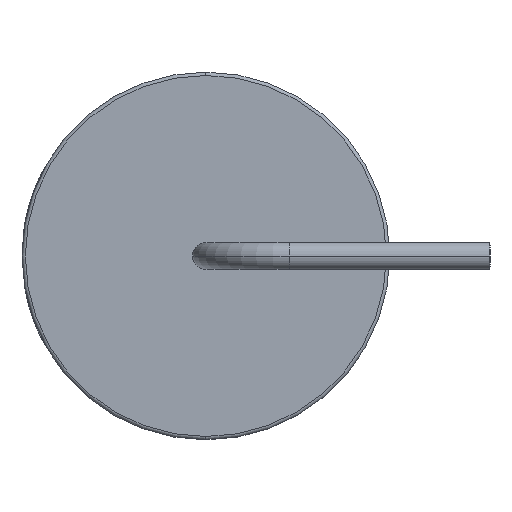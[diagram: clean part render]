
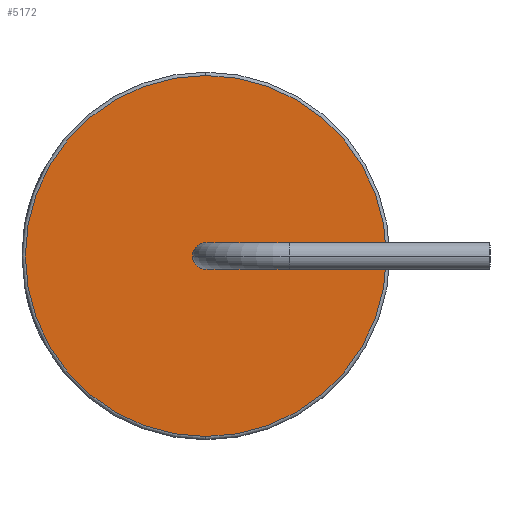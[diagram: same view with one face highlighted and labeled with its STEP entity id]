
A CAD part, left-side view. The second image highlights one B-rep face of the part: STEP entity #5172.
In plain terms, the highlighted planar face has unit normal (-1, 0, 0).
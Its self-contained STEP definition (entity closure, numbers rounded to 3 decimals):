
#41 = AXIS2_PLACEMENT_3D ( 'NONE', #2728, #2750, #3755 ) ;
#53 = AXIS2_PLACEMENT_3D ( 'NONE', #5162, #1799, #3710 ) ;
#113 = VERTEX_POINT ( 'NONE', #5294 ) ;
#241 = DIRECTION ( 'NONE',  ( 0., 0., -1. ) ) ;
#630 = EDGE_CURVE ( 'NONE', #113, #3012, #4797, .T. ) ;
#763 = DIRECTION ( 'NONE',  ( -1., 0., 0. ) ) ;
#911 = CARTESIAN_POINT ( 'NONE',  ( -16.5, 0.4, 0. ) ) ;
#964 = EDGE_CURVE ( 'NONE', #3813, #1750, #3446, .T. ) ;
#1046 = ORIENTED_EDGE ( 'NONE', *, *, #5149, .T. ) ;
#1075 = EDGE_LOOP ( 'NONE', ( #1046, #2348 ) ) ;
#1324 = AXIS2_PLACEMENT_3D ( 'NONE', #2134, #4528, #3591 ) ;
#1660 = CARTESIAN_POINT ( 'NONE',  ( -16.5, 0., 0. ) ) ;
#1750 = VERTEX_POINT ( 'NONE', #4082 ) ;
#1799 = DIRECTION ( 'NONE',  ( -1., 0., 0. ) ) ;
#1818 = DIRECTION ( 'NONE',  ( 0., 0., -1. ) ) ;
#1862 = CIRCLE ( 'NONE', #1324, 5.4 ) ;
#2086 = FACE_BOUND ( 'NONE', #3725, .T. ) ;
#2134 = CARTESIAN_POINT ( 'NONE',  ( -16.5, 0., 0. ) ) ;
#2348 = ORIENTED_EDGE ( 'NONE', *, *, #964, .T. ) ;
#2728 = CARTESIAN_POINT ( 'NONE',  ( -16.5, 0., 0. ) ) ;
#2750 = DIRECTION ( 'NONE',  ( -1., 0., 0. ) ) ;
#2848 = FACE_OUTER_BOUND ( 'NONE', #1075, .T. ) ;
#3012 = VERTEX_POINT ( 'NONE', #911 ) ;
#3206 = ORIENTED_EDGE ( 'NONE', *, *, #630, .F. ) ;
#3265 = AXIS2_PLACEMENT_3D ( 'NONE', #1660, #4053, #241 ) ;
#3446 = CIRCLE ( 'NONE', #41, 5.4 ) ;
#3494 = CARTESIAN_POINT ( 'NONE',  ( -16.5, 0., 5.4 ) ) ;
#3591 = DIRECTION ( 'NONE',  ( 0., 0., -1. ) ) ;
#3661 = CIRCLE ( 'NONE', #53, 0.4 ) ;
#3669 = CARTESIAN_POINT ( 'NONE',  ( -16.5, 0., 0. ) ) ;
#3710 = DIRECTION ( 'NONE',  ( 0., 0., -1. ) ) ;
#3725 = EDGE_LOOP ( 'NONE', ( #3206, #5600 ) ) ;
#3755 = DIRECTION ( 'NONE',  ( 0., 0., -1. ) ) ;
#3813 = VERTEX_POINT ( 'NONE', #3494 ) ;
#3831 = PLANE ( 'NONE',  #3265 ) ;
#4053 = DIRECTION ( 'NONE',  ( 1., 0., 0. ) ) ;
#4082 = CARTESIAN_POINT ( 'NONE',  ( -16.5, 0., -5.4 ) ) ;
#4528 = DIRECTION ( 'NONE',  ( -1., 0., 0. ) ) ;
#4797 = CIRCLE ( 'NONE', #5738, 0.4 ) ;
#5149 = EDGE_CURVE ( 'NONE', #1750, #3813, #1862, .T. ) ;
#5162 = CARTESIAN_POINT ( 'NONE',  ( -16.5, 0., 0. ) ) ;
#5172 = ADVANCED_FACE ( 'NONE', ( #2848, #2086 ), #3831, .F. ) ;
#5294 = CARTESIAN_POINT ( 'NONE',  ( -16.5, -0.4, 0. ) ) ;
#5600 = ORIENTED_EDGE ( 'NONE', *, *, #5756, .F. ) ;
#5738 = AXIS2_PLACEMENT_3D ( 'NONE', #3669, #763, #1818 ) ;
#5756 = EDGE_CURVE ( 'NONE', #3012, #113, #3661, .T. ) ;
